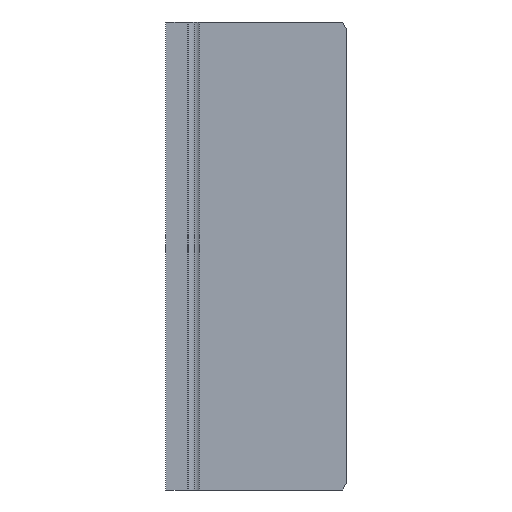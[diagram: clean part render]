
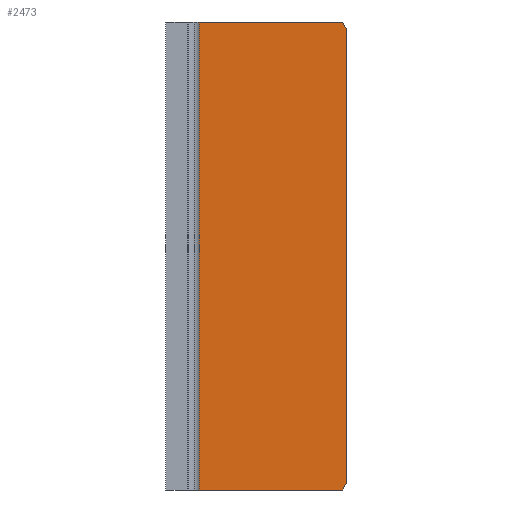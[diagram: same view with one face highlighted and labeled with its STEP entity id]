
A CAD part, left-side view. The second image highlights one B-rep face of the part: STEP entity #2473.
In plain terms, the highlighted planar face has unit normal (-1, 0, 0).
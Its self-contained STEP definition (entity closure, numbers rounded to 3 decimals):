
#1200 = VECTOR ( 'NONE', #3149, 1000. ) ;
#1238 = CARTESIAN_POINT ( 'NONE',  ( -20.5, -22., -35. ) ) ;
#1246 = DIRECTION ( 'NONE',  ( 0., 0., -1. ) ) ;
#1266 = ORIENTED_EDGE ( 'NONE', *, *, #11515, .T. ) ;
#1283 = VERTEX_POINT ( 'NONE', #3690 ) ;
#1542 = CARTESIAN_POINT ( 'NONE',  ( -20.5, -21.423, -35. ) ) ;
#2079 = DIRECTION ( 'NONE',  ( 0., -1., 0. ) ) ;
#2097 = EDGE_LOOP ( 'NONE', ( #11682, #6513, #4468, #6664, #11335, #1266 ) ) ;
#2237 = LINE ( 'NONE', #5079, #10276 ) ;
#2473 = ADVANCED_FACE ( 'NONE', ( #10615 ), #6379, .F. ) ;
#2529 = CARTESIAN_POINT ( 'NONE',  ( -20.5, -21.423, 35. ) ) ;
#2845 = CARTESIAN_POINT ( 'NONE',  ( -20.5, -21.423, 35. ) ) ;
#3149 = DIRECTION ( 'NONE',  ( 0., -1., 0. ) ) ;
#3642 = EDGE_CURVE ( 'NONE', #1283, #7077, #6738, .T. ) ;
#3644 = CARTESIAN_POINT ( 'NONE',  ( -20.5, 0., -35. ) ) ;
#3690 = CARTESIAN_POINT ( 'NONE',  ( -20.5, 0., 35. ) ) ;
#3706 = VECTOR ( 'NONE', #2079, 1000. ) ;
#3966 = CARTESIAN_POINT ( 'NONE',  ( -20.5, -22., 35. ) ) ;
#4139 = VECTOR ( 'NONE', #7397, 1000. ) ;
#4283 = VECTOR ( 'NONE', #9971, 1000. ) ;
#4468 = ORIENTED_EDGE ( 'NONE', *, *, #3642, .F. ) ;
#4501 = EDGE_CURVE ( 'NONE', #7411, #4513, #9704, .T. ) ;
#4513 = VERTEX_POINT ( 'NONE', #11309 ) ;
#4637 = DIRECTION ( 'NONE',  ( 0., 1., 0. ) ) ;
#5079 = CARTESIAN_POINT ( 'NONE',  ( -20.5, 0., 35. ) ) ;
#5241 = CARTESIAN_POINT ( 'NONE',  ( -20.5, -22., -34. ) ) ;
#5298 = EDGE_CURVE ( 'NONE', #1283, #9976, #2237, .T. ) ;
#5531 = EDGE_CURVE ( 'NONE', #9976, #10691, #10999, .T. ) ;
#6379 = PLANE ( 'NONE',  #6552 ) ;
#6405 = VECTOR ( 'NONE', #10369, 1000. ) ;
#6424 = LINE ( 'NONE', #5241, #4283 ) ;
#6513 = ORIENTED_EDGE ( 'NONE', *, *, #9654, .T. ) ;
#6552 = AXIS2_PLACEMENT_3D ( 'NONE', #9261, #8318, #4637 ) ;
#6638 = CARTESIAN_POINT ( 'NONE',  ( -20.5, -22., 35. ) ) ;
#6664 = ORIENTED_EDGE ( 'NONE', *, *, #5298, .T. ) ;
#6738 = LINE ( 'NONE', #6638, #3706 ) ;
#7077 = VERTEX_POINT ( 'NONE', #2529 ) ;
#7397 = DIRECTION ( 'NONE',  ( 0., 0.5, 0.866 ) ) ;
#7411 = VERTEX_POINT ( 'NONE', #8348 ) ;
#8318 = DIRECTION ( 'NONE',  ( 1., 0., 0. ) ) ;
#8348 = CARTESIAN_POINT ( 'NONE',  ( -20.5, -22., 34. ) ) ;
#9261 = CARTESIAN_POINT ( 'NONE',  ( -20.5, -22., 35. ) ) ;
#9654 = EDGE_CURVE ( 'NONE', #7411, #7077, #10726, .T. ) ;
#9704 = LINE ( 'NONE', #3966, #6405 ) ;
#9971 = DIRECTION ( 'NONE',  ( 0., -0.5, 0.866 ) ) ;
#9976 = VERTEX_POINT ( 'NONE', #3644 ) ;
#10276 = VECTOR ( 'NONE', #1246, 1000. ) ;
#10369 = DIRECTION ( 'NONE',  ( 0., 0., -1. ) ) ;
#10615 = FACE_OUTER_BOUND ( 'NONE', #2097, .T. ) ;
#10691 = VERTEX_POINT ( 'NONE', #1542 ) ;
#10726 = LINE ( 'NONE', #2845, #4139 ) ;
#10999 = LINE ( 'NONE', #1238, #1200 ) ;
#11309 = CARTESIAN_POINT ( 'NONE',  ( -20.5, -22., -34. ) ) ;
#11335 = ORIENTED_EDGE ( 'NONE', *, *, #5531, .T. ) ;
#11515 = EDGE_CURVE ( 'NONE', #10691, #4513, #6424, .T. ) ;
#11682 = ORIENTED_EDGE ( 'NONE', *, *, #4501, .F. ) ;
